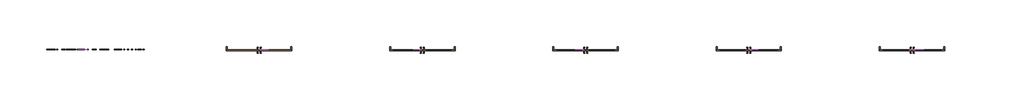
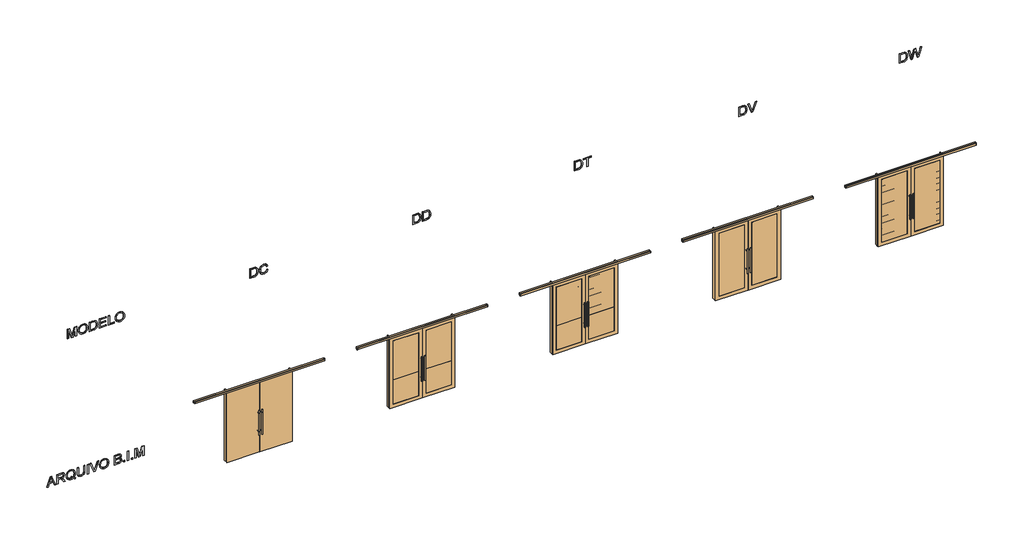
# One storey: 7 proxies, 5 doors.
"""IFC4 building model written with IfcOpenShell, lengths in millimetres."""

from ifc_helpers import new_model, si_unit, frame, origin, place, context, project, spatial, polyline, outline, extrude, transform, mapped, element, save
from components import dc_4052c871, dd_aefd0d47, dt_20cca38d, dv_93a55587, dw_8a9411e3

model = new_model("IFC4")

# Units and contexts
model_context = context("Model", 3, world=origin())
ifc_project = project(units=[si_unit("LENGTHUNIT", "METRE", prefix="MILLI")], contexts=[model_context])

# Site, building, storey
site = spatial("IfcSite", under=ifc_project)
building = spatial("IfcBuilding", under=site)
storey = spatial("IfcBuildingStorey", under=building, Name="08 - Marelli - Planta Baixa - Porta de Correr (02 Folhas)", Elevation=84000.0)

# Proxies
placement = place(None, origin())
element("IfcBuildingElementProxy", 1, Name="300mm Arial", ObjectType="300mm Arial", at=placement, inside=storey, context=model_context, shape_type="SweptSolid", body=[
    extrude(outline(polyline([(85100.0, -7636.3146377), (85100.0, -7596.5098058), (85194.1777908, -7562.076051), (85194.1777908, -7437.9526659), (85100.0, -7403.4453347), (85100.0, -7363.6405028), (85401.3689304, -7483.9379153), (85401.3689304, -7516.0172252), (85100.0, -7636.3146377)]), holes=[polyline([(85231.8489071, -7548.243688), (85312.415064, -7518.739552), (85363.6978141, -7499.9775703), (85305.9403409, -7478.8611437), (85231.8489071, -7451.7114525), (85231.8489071, -7548.243688)])]), frame((0.0, 8778.3159498, 0.0), z_axis=(0.0, 1.0, 0.0), x_axis=(0.0, 0.0, 1.0)), (0.0, 0.0, 1.0), 10.0),
    extrude(outline(polyline([(85100.0, -7323.3942126), (85100.0, -7285.7230963), (85231.8489071, -7285.7230963), (85231.8489071, -7240.2528817), (85230.5245319, -7218.4006911), (85223.350833, -7200.484838), (85203.816299, -7180.582422), (85162.4663628, -7152.2555084), (85100.0, -7113.0392877), (85100.0, -7069.2613303), (85181.6698029, -7119.5140108), (85220.4445652, -7150.0482164), (85236.5577966, -7171.4589486), (85246.5457928, -7134.3488523), (85254.5610217, -7119.9669655), (85264.5904046, -7108.3671864), (85289.2017101, -7093.0540983), (85318.8897871, -7087.9497357), (85342.7561316, -7091.0307474), (85364.4703663, -7100.2737825), (85381.9815493, -7114.6763626), (85393.2387384, -7133.2360093), (85399.3363824, -7158.629064), (85401.3689304, -7193.5318683), (85401.3689304, -7323.3942126), (85100.0, -7323.3942126)]), holes=[polyline([(85269.5200234, -7285.7230963), (85363.6978141, -7285.7230963), (85363.6978141, -7191.9131875), (85360.4420585, -7162.1055488), (85350.6747915, -7141.5501423), (85335.8675412, -7129.6031746), (85317.4918355, -7125.620852), (85304.1837044, -7127.7085823), (85291.9240369, -7133.9717732), (85281.7888879, -7144.254075), (85274.8543123, -7158.3991377), (85270.8535956, -7177.1887106), (85269.5200234, -7201.404543), (85269.5200234, -7285.7230963)])]), frame((0.0, 8778.3159498, 0.0), z_axis=(0.0, 1.0, 0.0), x_axis=(0.0, 0.0, 1.0)), (0.0, 0.0, 1.0), 10.0),
    extrude(outline(polyline([(85136.1260119, -6795.6307023), (85159.6520655, -6777.1814202), (85186.9673037, -6764.0664271), (85218.0349382, -6756.2305406), (85252.8181808, -6753.6185784), (85294.6463636, -6757.9227978), (85331.9863862, -6770.8354558), (85363.1827793, -6791.9610794), (85386.5800742, -6820.9041954), (85401.2033836, -6855.7702114), (85406.07782, -6894.6645354), (85401.3137481, -6933.2553567), (85387.0215326, -6967.9466288), (85363.6150407, -6996.93573), (85331.5081396, -7018.4200386), (85293.055274, -7031.7189727), (85250.6108888, -7036.1519507), (85208.2032918, -7031.7097756), (85170.3022493, -7018.3832504), (85138.6460036, -6996.8161684), (85114.9727972, -6967.6523232), (85100.2115321, -6932.8322924), (85095.2911105, -6894.2966534), (85099.5585416, -6855.9449554), (85112.360835, -6821.0881364), (85091.52032, -6790.1308665), (85077.1177399, -6759.063232), (85104.7088895, -6748.9096889), (85117.5295771, -6771.2953083), (85136.1260119, -6795.6307023)]), holes=[polyline([(85186.2315397, -6883.9223811), (85157.3895912, -6893.6344658), (85150.712533, -6873.2721974), (85140.6877487, -6853.9767867), (85134.8936072, -6873.6032912), (85132.9622268, -6894.5173826), (85134.8637168, -6916.2385151), (85140.568187, -6935.9316982), (85150.0756373, -6953.5969318), (85163.3860678, -6969.2342158), (85180.251158, -6982.0296115), (85200.4225876, -6991.1691798), (85223.9003567, -6996.6529208), (85250.6844652, -6998.4808344), (85278.1859436, -6996.6322274), (85302.0499888, -6991.0864063), (85322.2766007, -6981.8433712), (85338.8657795, -6968.903122), (85351.7899338, -6953.1577726), (85361.0214726, -6935.4994369), (85366.5603959, -6915.9281147), (85368.4067037, -6894.4438062), (85364.7554749, -6865.9605427), (85353.8017885, -6840.4019411), (85336.2354232, -6819.2027411), (85312.7461578, -6803.7976826), (85284.0605592, -6794.4166917), (85250.9051944, -6791.2896947), (85221.7321522, -6793.5015852), (85196.4586591, -6800.1372567), (85175.0847152, -6811.1967092), (85157.6103204, -6826.6799427), (85174.2569807, -6852.2477413), (85186.2315397, -6883.9223811)])]), frame((0.0, 8778.3159498, 0.0), z_axis=(0.0, 1.0, 0.0), x_axis=(0.0, 0.0, 1.0)), (0.0, 0.0, 1.0), 10.0),
    extrude(outline(polyline([(85401.3689304, -6499.3385434), (85228.8322747, -6499.3385434), (85181.6698029, -6504.1026152), (85164.9311721, -6510.057705), (85152.7542781, -6518.3948307), (85144.0952556, -6529.5278596), (85137.9102396, -6543.8706589), (85132.9622268, -6582.1855687), (85135.4638243, -6606.3554158), (85142.968617, -6626.4785609), (85155.0811317, -6641.9112106), (85171.4058953, -6652.0095714), (85194.9779341, -6657.5829836), (85228.8322747, -6659.4407877), (85401.3689304, -6659.4407877), (85401.3689304, -6697.111904), (85227.5078995, -6697.111904), (85184.7324205, -6694.2516215), (85152.0553023, -6685.6707739), (85127.6923172, -6670.4036711), (85109.8592375, -6647.4846228), (85098.9331422, -6616.904432), (85095.2911105, -6578.6539015), (85099.4757682, -6539.5480454), (85112.0297412, -6508.7563224), (85131.2515755, -6486.2235502), (85155.4398167, -6471.8945465), (85186.7925597, -6464.2242069), (85227.5078995, -6461.6674271), (85401.3689304, -6461.6674271), (85401.3689304, -6499.3385434)])), frame((0.0, 8778.3159498, 0.0), z_axis=(0.0, 1.0, 0.0), x_axis=(0.0, 0.0, 1.0)), (0.0, 0.0, 1.0), 10.0),
    extrude(outline(polyline([(-6353.3629677, 8778.3159498), (-6391.034084, 8778.3159498), (-6391.034084, 8788.3159498), (-6353.3629677, 8788.3159498), (-6353.3629677, 8778.3159498)])), frame((0.0, 0.0, 85100.0), z_axis=(0.0, 0.0, 1.0), x_axis=(1.0, 0.0, 0.0)), (0.0, 0.0, 1.0), 301.3689304),
    extrude(outline(polyline([(85100.0, -6188.9932922), (85100.0, -6150.0713771), (85401.3689304, -6035.2186183), (85401.3689304, -6075.5384849), (85184.2449769, -6156.0310655), (85135.3166715, -6172.0707205), (85184.2449769, -6188.3311046), (85401.3689304, -6268.602956), (85401.3689304, -6308.9228227), (85100.0, -6188.9932922)])), frame((0.0, 8778.3159498, 0.0), z_axis=(0.0, 1.0, 0.0), x_axis=(0.0, 0.0, 1.0)), (0.0, 0.0, 1.0), 10.0),
    extrude(outline(polyline([(85246.7113397, -6014.3229209), (85208.1665036, -6010.0187016), (85171.7002009, -5997.1060436), (85140.007167, -5975.8424642), (85115.7821376, -5946.485481), (85100.4138672, -5910.8377157), (85095.2911105, -5870.70179), (85099.9264236, -5832.892718), (85113.832363, -5797.7507904), (85136.7514113, -5767.7868019), (85168.4260511, -5745.5115471), (85206.8881137, -5731.6883811), (85250.1694304, -5727.0806591), (85292.8805301, -5731.4584548), (85330.8091638, -5744.5918421), (85362.4286213, -5766.0761506), (85386.2121922, -5795.5067102), (85401.1114131, -5830.9521404), (85406.07782, -5870.4810608), (85403.4336681, -5900.7715446), (85395.5012126, -5928.1465636), (85382.2804534, -5952.6061177), (85363.7713905, -5974.1502071), (85340.5902263, -5991.7257694), (85313.3531631, -6004.2797425), (85282.0602009, -6011.8121263), (85246.7113397, -6014.3229209)]), holes=[polyline([(85246.3434577, -5976.6518046), (85276.8799625, -5974.6882345), (85302.7121764, -5968.797524), (85323.8400992, -5958.9796733), (85340.263731, -5945.2346822), (85352.5762816, -5928.7673644), (85361.3709605, -5910.7825334), (85366.6477679, -5891.2801891), (85368.4067037, -5870.2603316), (85364.7554749, -5841.0964864), (85353.8017885, -5814.9676677), (85336.2078321, -5793.3086153), (85312.6357932, -5777.5540688), (85283.8122389, -5767.9523488), (85250.463736, -5764.7517754), (85223.9256486, -5766.6210758), (85200.5973316, -5772.228977), (85180.478785, -5781.5754789), (85163.5700088, -5794.6605816), (85150.1791041, -5810.642755), (85140.6141723, -5828.6804691), (85134.8752131, -5848.7737238), (85132.9622268, -5870.9225192), (85134.856819, -5892.6988341), (85140.5405959, -5912.557564), (85150.0135572, -5930.4987091), (85163.2757032, -5946.5222692), (85179.8349915, -5959.703941), (85199.19938, -5969.1194208), (85221.3688687, -5974.7687087), (85246.3434577, -5976.6518046)])]), frame((0.0, 8778.3159498, 0.0), z_axis=(0.0, 1.0, 0.0), x_axis=(0.0, 0.0, 1.0)), (0.0, 0.0, 1.0), 10.0),
    extrude(outline(polyline([(85100.0, -5557.5606357), (85100.0, -5443.4436408), (85105.1871361, -5395.1407348), (85111.6066769, -5377.10532), (85120.4910271, -5362.3624491), (85132.7598917, -5350.3235108), (85149.3329756, -5340.399894), (85168.8215242, -5333.7504269), (85189.8367832, -5331.5339379), (85215.055094, -5334.7804965), (85236.7049494, -5344.5201723), (85253.6643094, -5360.2931129), (85264.8111338, -5381.6394656), (85276.5557665, -5363.7695977), (85291.4825785, -5351.0684718), (85308.543106, -5343.4809057), (85326.6888854, -5340.951717), (85346.4073604, -5343.9591523), (85365.2429185, -5352.9814582), (85381.2549824, -5367.3104619), (85392.5029744, -5386.2379906), (85399.1524414, -5410.9320695), (85401.3689304, -5442.560724), (85401.3689304, -5557.5606357), (85100.0, -5557.5606357)]), holes=[polyline([(85278.9378025, -5519.8895194), (85363.6978141, -5519.8895194), (85363.6978141, -5456.3195106), (85359.7614768, -5407.9062401), (85354.1604734, -5395.4166463), (85345.230138, -5386.2012024), (85333.7890079, -5380.5174255), (85320.6556207, -5378.6228333), (85307.1267603, -5380.6553813), (85296.1178916, -5386.7530254), (85287.7577733, -5396.8605832), (85282.175164, -5410.9228724), (85278.9378025, -5451.0955863), (85278.9378025, -5519.8895194)]), polyline([(85137.6711163, -5519.8895194), (85241.2666861, -5519.8895194), (85241.2666861, -5446.3131204), (85240.0066903, -5419.4853259), (85236.2267028, -5399.776048), (85229.3381125, -5385.8609115), (85218.752308, -5376.4155413), (85205.2142506, -5371.007676), (85189.4689012, -5369.2050542), (85175.9124497, -5370.7409615), (85164.0850436, -5375.3486835), (85147.3464128, -5391.0204565), (85139.1426443, -5414.6752688), (85137.6711163, -5442.6343004), (85137.6711163, -5519.8895194)])]), frame((0.0, 8778.3159498, 0.0), z_axis=(0.0, 1.0, 0.0), x_axis=(0.0, 0.0, 1.0)), (0.0, 0.0, 1.0), 10.0),
    extrude(outline(polyline([(-5237.3561471, 8778.3159498), (-5275.0272634, 8778.3159498), (-5275.0272634, 8788.3159498), (-5237.3561471, 8788.3159498), (-5237.3561471, 8778.3159498)])), frame((0.0, 0.0, 85100.0), z_axis=(0.0, 0.0, 1.0), x_axis=(1.0, 0.0, 0.0)), (0.0, 0.0, 1.0), 37.6711163),
    extrude(outline(polyline([(-5119.6339087, 8778.3159498), (-5157.305025, 8778.3159498), (-5157.305025, 8788.3159498), (-5119.6339087, 8788.3159498), (-5119.6339087, 8778.3159498)])), frame((0.0, 0.0, 85100.0), z_axis=(0.0, 0.0, 1.0), x_axis=(1.0, 0.0, 0.0)), (0.0, 0.0, 1.0), 301.3689304),
    extrude(outline(polyline([(-5001.9116702, 8778.3159498), (-5039.5827865, 8778.3159498), (-5039.5827865, 8788.3159498), (-5001.9116702, 8788.3159498), (-5001.9116702, 8778.3159498)])), frame((0.0, 0.0, 85100.0), z_axis=(0.0, 0.0, 1.0), x_axis=(1.0, 0.0, 0.0)), (0.0, 0.0, 1.0), 37.6711163),
    extrude(outline(polyline([(85100.0, -4926.5694376), (85100.0, -4888.8983213), (85363.6978141, -4888.8983213), (85100.0, -4813.1882067), (85100.0, -4762.1261857), (85363.6978141, -4686.4160711), (85100.0, -4686.4160711), (85100.0, -4648.7449548), (85401.3689304, -4648.7449548), (85401.3689304, -4713.5657624), (85192.6326864, -4774.1927152), (85144.5872978, -4787.6571962), (85188.9538664, -4800.0916076), (85401.3689304, -4861.74863), (85401.3689304, -4926.5694376), (85100.0, -4926.5694376)])), frame((0.0, 8778.3159498, 0.0), z_axis=(0.0, 1.0, 0.0), x_axis=(0.0, 0.0, 1.0)), (0.0, 0.0, 1.0), 10.0),
])
element("IfcBuildingElementProxy", 2, Name="300mm Arial", ObjectType="300mm Arial", at=placement, inside=storey, context=model_context, shape_type="SweptSolid", body=[
    extrude(outline(polyline([(89700.0, -6993.7719449), (89700.0, -6956.1008286), (89963.6978141, -6956.1008286), (89700.0, -6880.390714), (89700.0, -6829.328693), (89963.6978141, -6753.6185784), (89700.0, -6753.6185784), (89700.0, -6715.9474621), (90001.3689304, -6715.9474621), (90001.3689304, -6780.7682697), (89792.6326864, -6841.3952225), (89744.5872978, -6854.8597035), (89788.9538664, -6867.2941149), (90001.3689304, -6928.9511373), (90001.3689304, -6993.7719449), (89700.0, -6993.7719449)])), frame((0.0, 8778.3159498, 0.0), z_axis=(0.0, 1.0, 0.0), x_axis=(0.0, 0.0, 1.0)), (0.0, 0.0, 1.0), 10.0),
    extrude(outline(polyline([(89846.7113397, -6664.1496772), (89808.1665036, -6659.8454579), (89771.7002009, -6646.9327998), (89740.007167, -6625.6692205), (89715.7821376, -6596.3122373), (89700.4138672, -6560.664472), (89695.2911105, -6520.5285463), (89699.9264236, -6482.7194742), (89713.832363, -6447.5775466), (89736.7514113, -6417.6135581), (89768.4260511, -6395.3383033), (89806.8881137, -6381.5151374), (89850.1694304, -6376.9074154), (89892.8805301, -6381.2852111), (89930.8091638, -6394.4185983), (89962.4286213, -6415.9029069), (89986.2121922, -6445.3334665), (90001.1114131, -6480.7788967), (90006.07782, -6520.3078171), (90003.4336681, -6550.5983009), (89995.5012126, -6577.9733198), (89982.2804534, -6602.432874), (89963.7713905, -6623.9769633), (89940.5902263, -6641.5525257), (89913.3531631, -6654.1064987), (89882.0602009, -6661.6388826), (89846.7113397, -6664.1496772)]), holes=[polyline([(89846.3434577, -6626.4785609), (89876.8799625, -6624.5149908), (89902.7121764, -6618.6242803), (89923.8400992, -6608.8064296), (89940.263731, -6595.0614385), (89952.5762816, -6578.5941207), (89961.3709605, -6560.6092897), (89966.6477679, -6541.1069454), (89968.4067037, -6520.0870879), (89964.7554749, -6490.9232427), (89953.8017885, -6464.794424), (89936.2078321, -6443.1353716), (89912.6357932, -6427.3808251), (89883.8122389, -6417.779105), (89850.463736, -6414.5785317), (89823.9256486, -6416.4478321), (89800.5973316, -6422.0557332), (89780.478785, -6431.4022352), (89763.5700088, -6444.4873379), (89750.1791041, -6460.4695113), (89740.6141723, -6478.5072254), (89734.8752131, -6498.6004801), (89732.9622268, -6520.7492755), (89734.856819, -6542.5255903), (89740.5405959, -6562.3843203), (89750.0135572, -6580.3254653), (89763.2757032, -6596.3490255), (89779.8349915, -6609.5306972), (89799.19938, -6618.9461771), (89821.3688687, -6624.5954649), (89846.3434577, -6626.4785609)])]), frame((0.0, 8778.3159498, 0.0), z_axis=(0.0, 1.0, 0.0), x_axis=(0.0, 0.0, 1.0)), (0.0, 0.0, 1.0), 10.0),
    extrude(outline(polyline([(89700.0, -6325.1096305), (89700.0, -6216.1429835), (89705.1503479, -6167.6929247), (89711.5055094, -6148.1491937), (89720.2702979, -6131.6772774), (89732.088507, -6117.3298796), (89747.6039302, -6104.1597042), (89767.2580258, -6092.7185741), (89791.4922522, -6083.5583124), (89819.9571216, -6077.5434418), (89852.303146, -6075.5384849), (89890.3789325, -6078.499935), (89923.9665587, -6087.3842852), (89952.5142015, -6102.2283237), (89975.470038, -6123.0688387), (89988.6586075, -6143.3391366), (89997.0279229, -6167.3618309), (90001.3689304, -6221.1461786), (90001.3689304, -6325.1096305), (89700.0, -6325.1096305)]), holes=[polyline([(89737.6711163, -6287.4385141), (89963.6978141, -6287.4385141), (89963.6978141, -6221.8083662), (89962.189498, -6190.06015), (89957.6645494, -6168.3919005), (89945.0829852, -6147.10073), (89924.2608643, -6129.2860444), (89893.9473879, -6117.228712), (89852.8917572, -6113.2096012), (89821.9068962, -6115.2605434), (89795.9068361, -6121.4133697), (89774.7996067, -6131.245016), (89758.4932372, -6144.332418), (89749.6824634, -6156.5093121), (89743.1157698, -6172.2914497), (89739.0322797, -6193.2055411), (89737.6711163, -6220.7782966), (89737.6711163, -6287.4385141)])]), frame((0.0, 8778.3159498, 0.0), z_axis=(0.0, 1.0, 0.0), x_axis=(0.0, 0.0, 1.0)), (0.0, 0.0, 1.0), 10.0),
    extrude(outline(polyline([(89700.0, -6023.7407), (89700.0, -5802.4228917), (89737.6711163, -5802.4228917), (89737.6711163, -5986.0695837), (89836.5577966, -5986.0695837), (89836.5577966, -5816.5495603), (89874.2289129, -5816.5495603), (89874.2289129, -5986.0695837), (89963.6978141, -5986.0695837), (89963.6978141, -5807.1317812), (90001.3689304, -5807.1317812), (90001.3689304, -6023.7407), (89700.0, -6023.7407)])), frame((0.0, 8778.3159498, 0.0), z_axis=(0.0, 1.0, 0.0), x_axis=(0.0, 0.0, 1.0)), (0.0, 0.0, 1.0), 10.0),
    extrude(outline(polyline([(89700.0, -5745.9162172), (89700.0, -5557.5606357), (89737.6711163, -5557.5606357), (89737.6711163, -5708.2451009), (90001.3689304, -5708.2451009), (90001.3689304, -5745.9162172), (89700.0, -5745.9162172)])), frame((0.0, 8778.3159498, 0.0), z_axis=(0.0, 1.0, 0.0), x_axis=(0.0, 0.0, 1.0)), (0.0, 0.0, 1.0), 10.0),
    extrude(outline(polyline([(89846.7113397, -5529.3072985), (89808.1665036, -5525.0030791), (89771.7002009, -5512.0904211), (89740.007167, -5490.8268418), (89715.7821376, -5461.4698586), (89700.4138672, -5425.8220932), (89695.2911105, -5385.6861676), (89699.9264236, -5347.8770955), (89713.832363, -5312.7351679), (89736.7514113, -5282.7711794), (89768.4260511, -5260.4959246), (89806.8881137, -5246.6727586), (89850.1694304, -5242.0650367), (89892.8805301, -5246.4428324), (89930.8091638, -5259.5762196), (89962.4286213, -5281.0605281), (89986.2121922, -5310.4910878), (90001.1114131, -5345.936518), (90006.07782, -5385.4654384), (90003.4336681, -5415.7559222), (89995.5012126, -5443.1309411), (89982.2804534, -5467.5904953), (89963.7713905, -5489.1345846), (89940.5902263, -5506.7101469), (89913.3531631, -5519.26412), (89882.0602009, -5526.7965039), (89846.7113397, -5529.3072985)]), holes=[polyline([(89846.3434577, -5491.6361822), (89876.8799625, -5489.672612), (89902.7121764, -5483.7819016), (89923.8400992, -5473.9640508), (89940.263731, -5460.2190598), (89952.5762816, -5443.751742), (89961.3709605, -5425.7669109), (89966.6477679, -5406.2645667), (89968.4067037, -5385.2447092), (89964.7554749, -5356.080864), (89953.8017885, -5329.9520453), (89936.2078321, -5308.2929928), (89912.6357932, -5292.5384464), (89883.8122389, -5282.9367263), (89850.463736, -5279.736153), (89823.9256486, -5281.6054533), (89800.5973316, -5287.2133545), (89780.478785, -5296.5598565), (89763.5700088, -5309.6449592), (89750.1791041, -5325.6271326), (89740.6141723, -5343.6648467), (89734.8752131, -5363.7581014), (89732.9622268, -5385.9068968), (89734.856819, -5407.6832116), (89740.5405959, -5427.5419416), (89750.0135572, -5445.4830866), (89763.2757032, -5461.5066468), (89779.8349915, -5474.6883185), (89799.19938, -5484.1037983), (89821.3688687, -5489.7530862), (89846.3434577, -5491.6361822)])]), frame((0.0, 8778.3159498, 0.0), z_axis=(0.0, 1.0, 0.0), x_axis=(0.0, 0.0, 1.0)), (0.0, 0.0, 1.0), 10.0),
])
element("IfcBuildingElementProxy", 3, Name="300mm Arial", ObjectType="300mm Arial", at=placement, inside=storey, context=model_context, shape_type="SweptSolid", body=[
    extrude(outline(polyline([(89700.0, -1393.3885288), (89700.0, -1284.4218818), (89705.1503479, -1235.971823), (89711.5055094, -1216.428092), (89720.2702979, -1199.9561757), (89732.088507, -1185.6087779), (89747.6039302, -1172.4386025), (89767.2580258, -1160.9974724), (89791.4922522, -1151.8372107), (89819.9571216, -1145.8223401), (89852.303146, -1143.8173832), (89890.3789325, -1146.7788333), (89923.9665587, -1155.6631835), (89952.5142015, -1170.507222), (89975.470038, -1191.347737), (89988.6586075, -1211.6180349), (89997.0279229, -1235.6407292), (90001.3689304, -1289.4250769), (90001.3689304, -1393.3885288), (89700.0, -1393.3885288)]), holes=[polyline([(89737.6711163, -1355.7174125), (89963.6978141, -1355.7174125), (89963.6978141, -1290.0872645), (89962.189498, -1258.3390483), (89957.6645494, -1236.6707988), (89945.0829852, -1215.3796283), (89924.2608643, -1197.5649427), (89893.9473879, -1185.5076103), (89852.8917572, -1181.4884995), (89821.9068962, -1183.5394417), (89795.9068361, -1189.692268), (89774.7996067, -1199.5239144), (89758.4932372, -1212.6113163), (89749.6824634, -1224.7882104), (89743.1157698, -1240.570348), (89739.0322797, -1261.4844394), (89737.6711163, -1289.0571949), (89737.6711163, -1355.7174125)])]), frame((0.0, 8778.3159498, 0.0), z_axis=(0.0, 1.0, 0.0), x_axis=(0.0, 0.0, 1.0)), (0.0, 0.0, 1.0), 10.0),
    extrude(outline(polyline([(89807.127237, -880.1195691), (89774.863986, -892.3056602), (89751.6506321, -912.0885145), (89737.6343281, -938.2909096), (89732.9622268, -969.7356231), (89736.3927264, -996.7105704), (89746.6842252, -1021.717349), (89763.9102996, -1042.5762582), (89788.144526, -1057.107597), (89818.2372732, -1065.6332622), (89853.03891, -1068.4751506), (89881.4577941, -1066.0747206), (89909.0305497, -1058.8734305), (89933.4211259, -1045.7492404), (89952.2934723, -1025.58011), (89964.3783958, -999.0006358), (89968.4067037, -966.6454144), (89964.773869, -938.5760181), (89953.8753649, -915.7305462), (89935.0306097, -897.8882695), (89907.5590217, -884.8284586), (89916.5353424, -847.1573423), (89954.3536115, -863.7948056), (89969.6758966, -875.5969198), (89982.6069487, -889.7212892), (89992.8754549, -905.9011992), (90000.2101022, -923.8699354), (90006.07782, -965.1738864), (90001.5436744, -1003.0289437), (89987.9412376, -1037.573063), (89965.6016035, -1066.70012), (89934.8558657, -1088.3039902), (89896.9088379, -1101.6856977), (89852.9653336, -1106.1462669), (89811.3026976, -1102.2007325), (89772.3991767, -1090.3641293), (89739.3081912, -1070.9767482), (89715.0831618, -1044.3788799), (89700.2391233, -1009.6784107), (89695.2911105, -965.9832268), (89696.9258861, -943.5608192), (89701.8302129, -922.9410333), (89710.004091, -904.1238693), (89721.4475203, -887.109327), (89736.004151, -872.2330988), (89753.5176332, -859.8308771), (89773.987967, -849.9026617), (89797.4151523, -842.4484528), (89807.127237, -880.1195691)])), frame((0.0, 8778.3159498, 0.0), z_axis=(0.0, 1.0, 0.0), x_axis=(0.0, 0.0, 1.0)), (0.0, 0.0, 1.0), 10.0),
])
element("IfcBuildingElementProxy", 4, Name="300mm Arial", ObjectType="300mm Arial", at=placement, inside=storey, context=model_context, shape_type="SweptSolid", body=[
    extrude(outline(polyline([(89700.0, 8571.2947997), (89700.0, 8680.2614467), (89705.1503479, 8728.7115054), (89711.5055094, 8748.2552364), (89720.2702979, 8764.7271528), (89732.088507, 8779.0745506), (89747.6039302, 8792.244726), (89767.2580258, 8803.6858561), (89791.4922522, 8812.8461177), (89819.9571216, 8818.8609884), (89852.303146, 8820.8659452), (89890.3789325, 8817.9044952), (89923.9665587, 8809.020145), (89952.5142015, 8794.1761065), (89975.470038, 8773.3355915), (89988.6586075, 8753.0652935), (89997.0279229, 8729.0425992), (90001.3689304, 8675.2582515), (90001.3689304, 8571.2947997), (89700.0, 8571.2947997)]), holes=[polyline([(89737.6711163, 8608.965916), (89963.6978141, 8608.965916), (89963.6978141, 8674.596064), (89962.189498, 8706.3442801), (89957.6645494, 8728.0125296), (89945.0829852, 8749.3037001), (89924.2608643, 8767.1183857), (89893.9473879, 8779.1757181), (89852.8917572, 8783.1948289), (89821.9068962, 8781.1438868), (89795.9068361, 8774.9910604), (89774.7996067, 8765.1594141), (89758.4932372, 8752.0720121), (89749.6824634, 8739.8951181), (89743.1157698, 8724.1129805), (89739.0322797, 8703.1988891), (89737.6711163, 8675.6261335), (89737.6711163, 8608.965916)])]), frame((0.0, 8778.3159498, 0.0), z_axis=(0.0, 1.0, 0.0), x_axis=(0.0, 0.0, 1.0)), (0.0, 0.0, 1.0), 10.0),
    extrude(outline(polyline([(89700.0, 8948.0059628), (89700.0, 8985.6770791), (89963.6978141, 8985.6770791), (89963.6978141, 9084.5637594), (90001.3689304, 9084.5637594), (90001.3689304, 8849.1192825), (89963.6978141, 8849.1192825), (89963.6978141, 8948.0059628), (89700.0, 8948.0059628)])), frame((0.0, 8778.3159498, 0.0), z_axis=(0.0, 1.0, 0.0), x_axis=(0.0, 0.0, 1.0)), (0.0, 0.0, 1.0), 10.0),
])
element("IfcBuildingElementProxy", 5, Name="300mm Arial", ObjectType="300mm Arial", at=placement, inside=storey, context=model_context, shape_type="SweptSolid", body=[
    extrude(outline(polyline([(89700.0, 13618.3836951), (89700.0, 13727.3503421), (89705.1503479, 13775.8004008), (89711.5055094, 13795.3441318), (89720.2702979, 13811.8160482), (89732.088507, 13826.163446), (89747.6039302, 13839.3336214), (89767.2580258, 13850.7747514), (89791.4922522, 13859.9350131), (89819.9571216, 13865.9498837), (89852.303146, 13867.9548406), (89890.3789325, 13864.9933906), (89923.9665587, 13856.1090404), (89952.5142015, 13841.2650019), (89975.470038, 13820.4244868), (89988.6586075, 13800.1541889), (89997.0279229, 13776.1314946), (90001.3689304, 13722.3471469), (90001.3689304, 13618.3836951), (89700.0, 13618.3836951)]), holes=[polyline([(89737.6711163, 13656.0548114), (89963.6978141, 13656.0548114), (89963.6978141, 13721.6849593), (89962.189498, 13753.4331755), (89957.6645494, 13775.101425), (89945.0829852, 13796.3925955), (89924.2608643, 13814.2072811), (89893.9473879, 13826.2646135), (89852.8917572, 13830.2837243), (89821.9068962, 13828.2327822), (89795.9068361, 13822.0799558), (89774.7996067, 13812.2483095), (89758.4932372, 13799.1609075), (89749.6824634, 13786.9840135), (89743.1157698, 13771.2018759), (89739.0322797, 13750.2877845), (89737.6711163, 13722.7150289), (89737.6711163, 13656.0548114)])]), frame((0.0, 8778.3159498, 0.0), z_axis=(0.0, 1.0, 0.0), x_axis=(0.0, 0.0, 1.0)), (0.0, 0.0, 1.0), 10.0),
    extrude(outline(polyline([(89700.0, 14008.7800684), (89700.0, 14047.7019835), (90001.3689304, 14162.5547424), (90001.3689304, 14122.2348757), (89784.2449769, 14041.7422951), (89735.3166715, 14025.7026401), (89784.2449769, 14009.442256), (90001.3689304, 13929.1704046), (90001.3689304, 13888.8505379), (89700.0, 14008.7800684)])), frame((0.0, 8778.3159498, 0.0), z_axis=(0.0, 1.0, 0.0), x_axis=(0.0, 0.0, 1.0)), (0.0, 0.0, 1.0), 10.0),
])
element("IfcBuildingElementProxy", 6, Name="300mm Arial", ObjectType="300mm Arial", at=placement, inside=storey, context=model_context, shape_type="SweptSolid", body=[
    extrude(outline(polyline([(89700.0, 18547.750352), (89700.0, 18656.716999), (89705.1503479, 18705.1670577), (89711.5055094, 18724.7107887), (89720.2702979, 18741.1827051), (89732.088507, 18755.5301029), (89747.6039302, 18768.7002783), (89767.2580258, 18780.1414084), (89791.4922522, 18789.30167), (89819.9571216, 18795.3165407), (89852.303146, 18797.3214975), (89890.3789325, 18794.3600475), (89923.9665587, 18785.4756973), (89952.5142015, 18770.6316588), (89975.470038, 18749.7911438), (89988.6586075, 18729.5208458), (89997.0279229, 18705.4981515), (90001.3689304, 18651.7138038), (90001.3689304, 18547.750352), (89700.0, 18547.750352)]), holes=[polyline([(89737.6711163, 18585.4214683), (89963.6978141, 18585.4214683), (89963.6978141, 18651.0516163), (89962.189498, 18682.7998324), (89957.6645494, 18704.468082), (89945.0829852, 18725.7592524), (89924.2608643, 18743.573938), (89893.9473879, 18755.6312704), (89852.8917572, 18759.6503812), (89821.9068962, 18757.5994391), (89795.9068361, 18751.4466127), (89774.7996067, 18741.6149664), (89758.4932372, 18728.5275644), (89749.6824634, 18716.3506704), (89743.1157698, 18700.5685328), (89739.0322797, 18679.6544414), (89737.6711163, 18652.0816858), (89737.6711163, 18585.4214683)])]), frame((0.0, 8778.3159498, 0.0), z_axis=(0.0, 1.0, 0.0), x_axis=(0.0, 0.0, 1.0)), (0.0, 0.0, 1.0), 10.0),
    extrude(outline(polyline([(89700.0, 18903.050783), (89700.0, 18948.5209976), (89925.879545, 19014.3718747), (89964.9486129, 19025.7026401), (89932.501421, 19035.7826068), (89700.0, 19108.0346307), (89700.0, 19148.2809209), (90001.3689304, 19230.5393351), (90001.3689304, 19191.6909964), (89801.5354307, 19143.5720314), (89742.1592766, 19129.29821), (89797.4887287, 19115.5946057), (89852.671028, 19096.9981708), (90001.3689304, 19053.5880954), (90001.3689304, 18997.5964557), (89796.2379299, 18937.8524197), (89742.1592766, 18922.1070703), (89803.3012642, 18907.3917905), (90001.3689304, 18859.7142839), (90001.3689304, 18820.8659452), (89700.0, 18903.050783)])), frame((0.0, 8778.3159498, 0.0), z_axis=(0.0, 1.0, 0.0), x_axis=(0.0, 0.0, 1.0)), (0.0, 0.0, 1.0), 10.0),
])
element("IfcBuildingElementProxy", 7, Name="300mm Arial", ObjectType="300mm Arial", at=placement, inside=storey, context=model_context, shape_type="SweptSolid", body=[
    extrude(outline(polyline([(89700.0, 3606.6114712), (89700.0, 3715.5781182), (89705.1503479, 3764.028177), (89711.5055094, 3783.571908), (89720.2702979, 3800.0438243), (89732.088507, 3814.3912221), (89747.6039302, 3827.5613975), (89767.2580258, 3839.0025276), (89791.4922522, 3848.1627893), (89819.9571216, 3854.1776599), (89852.303146, 3856.1826168), (89890.3789325, 3853.2211667), (89923.9665587, 3844.3368165), (89952.5142015, 3829.492778), (89975.470038, 3808.652263), (89988.6586075, 3788.3819651), (89997.0279229, 3764.3592708), (90001.3689304, 3710.5749231), (90001.3689304, 3606.6114712), (89700.0, 3606.6114712)]), holes=[polyline([(89737.6711163, 3644.2825875), (89963.6978141, 3644.2825875), (89963.6978141, 3709.9127355), (89962.189498, 3741.6609517), (89957.6645494, 3763.3292012), (89945.0829852, 3784.6203717), (89924.2608643, 3802.4350573), (89893.9473879, 3814.4923897), (89852.8917572, 3818.5115005), (89821.9068962, 3816.4605583), (89795.9068361, 3810.307732), (89774.7996067, 3800.4760856), (89758.4932372, 3787.3886837), (89749.6824634, 3775.2117896), (89743.1157698, 3759.429652), (89739.0322797, 3738.5155606), (89737.6711163, 3710.9428051), (89737.6711163, 3644.2825875)])]), frame((0.0, 8778.3159498, 0.0), z_axis=(0.0, 1.0, 0.0), x_axis=(0.0, 0.0, 1.0)), (0.0, 0.0, 1.0), 10.0),
    extrude(outline(polyline([(89700.0, 3907.9804017), (89700.0, 4016.9470487), (89705.1503479, 4065.3971074), (89711.5055094, 4084.9408384), (89720.2702979, 4101.4127548), (89732.088507, 4115.7601526), (89747.6039302, 4128.930328), (89767.2580258, 4140.371458), (89791.4922522, 4149.5317197), (89819.9571216, 4155.5465903), (89852.303146, 4157.5515472), (89890.3789325, 4154.5900972), (89923.9665587, 4145.705747), (89952.5142015, 4130.8617085), (89975.470038, 4110.0211934), (89988.6586075, 4089.7508955), (89997.0279229, 4065.7282012), (90001.3689304, 4011.9438535), (90001.3689304, 3907.9804017), (89700.0, 3907.9804017)]), holes=[polyline([(89737.6711163, 3945.651518), (89963.6978141, 3945.651518), (89963.6978141, 4011.2816659), (89962.189498, 4043.0298821), (89957.6645494, 4064.6981316), (89945.0829852, 4085.9893021), (89924.2608643, 4103.8039877), (89893.9473879, 4115.8613201), (89852.8917572, 4119.8804309), (89821.9068962, 4117.8294888), (89795.9068361, 4111.6766624), (89774.7996067, 4101.8450161), (89758.4932372, 4088.7576141), (89749.6824634, 4076.5807201), (89743.1157698, 4060.7985825), (89739.0322797, 4039.8844911), (89737.6711163, 4012.3117355), (89737.6711163, 3945.651518)])]), frame((0.0, 8778.3159498, 0.0), z_axis=(0.0, 1.0, 0.0), x_axis=(0.0, 0.0, 1.0)), (0.0, 0.0, 1.0), 10.0),
])

# Doors
dc_shape = dc_4052c871(model_context)
element("IfcDoor", 8, ObjectType="Mobiliário_Mobiliário de Escritório_Porta Dupla de Correr Cega - DC_Marelli : DC", at=placement, inside=storey, context=model_context, shape_type="MappedRepresentation", body=[
    mapped(dc_shape, transform((-2473.5553694, 8888.3159498, 84000.0), x_axis=(1.0, 0.0, 0.0), y_axis=(0.0, 1.0, 0.0), z_axis=(0.0, 0.0, 1.0))),
])
dd_shape = dd_aefd0d47(model_context)
element("IfcDoor", 9, ObjectType="Mobiliário_Mobiliário de Escritório_Porta Dupla de Correr Mista Vidro Duplo - DD_Marelli : DD", at=placement, inside=storey, context=model_context, shape_type="MappedRepresentation", body=[
    mapped(dd_shape, transform((2526.4446306, 8888.3159498, 84000.0), x_axis=(1.0, 0.0, 0.0), y_axis=(0.0, 1.0, 0.0), z_axis=(0.0, 0.0, 1.0))),
])
dt_shape = dt_20cca38d(model_context)
element("IfcDoor", 10, ObjectType="Mobiliário_Mobiliário de Escritório_Porta Dupla de Correr Mista Vidro Duplo com Persiana - DT_Marelli : DT", at=placement, inside=storey, context=model_context, shape_type="MappedRepresentation", body=[
    mapped(dt_shape, transform((7526.4446306, 8888.3159498, 84000.0), x_axis=(1.0, 0.0, 0.0), y_axis=(0.0, 1.0, 0.0), z_axis=(0.0, 0.0, 1.0))),
])
dv_shape = dv_93a55587(model_context)
element("IfcDoor", 11, ObjectType="Mobiliário_Mobiliário de Escritório_Porta Dupla de Correr Vidro Duplo - DV_Marelli : DV", at=placement, inside=storey, context=model_context, shape_type="MappedRepresentation", body=[
    mapped(dv_shape, transform((12526.4446306, 8888.3159498, 84000.0), x_axis=(1.0, 0.0, 0.0), y_axis=(0.0, 1.0, 0.0), z_axis=(0.0, 0.0, 1.0))),
])
dw_shape = dw_8a9411e3(model_context)
element("IfcDoor", 12, ObjectType="Mobiliário_Mobiliário de Escritório_Porta Dupla de Correr Vidro Duplo com Persiana - DW_Marelli : DW", at=placement, inside=storey, context=model_context, shape_type="MappedRepresentation", body=[
    mapped(dw_shape, transform((17526.4446306, 8888.3159498, 84000.0), x_axis=(1.0, 0.0, 0.0), y_axis=(0.0, 1.0, 0.0), z_axis=(0.0, 0.0, 1.0))),
])

save(model, "model.ifc")
